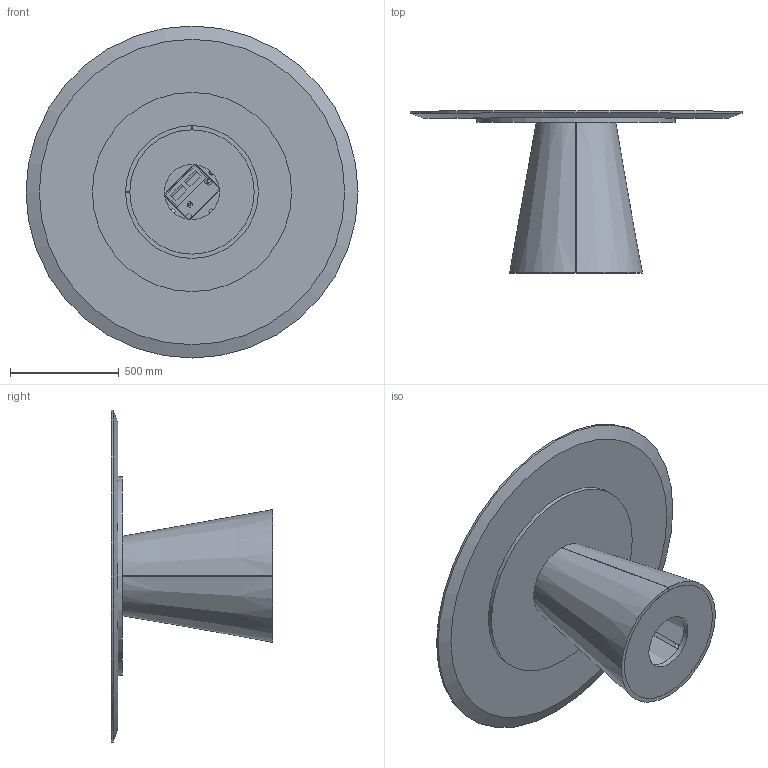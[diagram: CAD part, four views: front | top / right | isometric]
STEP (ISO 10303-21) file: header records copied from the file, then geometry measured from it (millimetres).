
FILE_DESCRIPTION(/* description */ ('','CAx-IF Rec.Pracs.---Representation and Presentation of Product Manufacturing Information (PMI)---4.0---2014-10-13'),/* implementation_level */ '2;1');
FILE_NAME(/* name */ 'TABLE_GRADIENT 2.stp',/* time_stamp */ '2024-12-07T16:26:19-05:00',/* author */ ('mbowman'),/* organization */ (''),/* preprocessor_version */ 'ST-DEVELOPER v19.2',/* originating_system */ 'Autodesk Inventor 2023',/* authorisation */ '');
FILE_SCHEMA (('AP242_MANAGED_MODEL_BASED_3D_ENGINEERING_MIM_LF { 1 0 10303 442 1 1 4 }'));
Length unit declared in the file: inch
Products named in the file (20): GRADIENT^TABLE 2_RADIUS BASE-60 ROUND TOP; GRADIENT^TABLE 2_RADIUS BASE-BASE SIDE; GRADIENT^TABLE 2_RADIUS BASE-BASE TOP; GRADIENT^TABLE 2_RADIUS BASE-BASE BOTTOM; GRADIENT^TABLE 2_RADIUS BASE-SUB TOP; GRADIENT^TABLE 2_RADIUS BASE-TOP; GRADIENT^TABLE 2_RADIUS BASE-BASE DOOR; ECA INTERACT+ UT; ECA INTERACT+ UT_1; 8965-6403_8965-6408 no wires; 025-0043_025-0043; GRADIENT^TABLE 2_RADIUS BASE-POWER LID; _ASSEM_HINGE; _ASSEM_HINGE_1; _SUPPORT; _TIGE_3; _ARM; _TIGE_2; _TIGE_1; GRADIENT^TABLE 2_RADIUS BASE-BASE RIB
Assembly tree (42 placements, depth 4):
  GRADIENT^TABLE 2_RADIUS BASE-60 ROUND TOP
    GRADIENT^TABLE 2_RADIUS BASE-BASE SIDE
    GRADIENT^TABLE 2_RADIUS BASE-BASE TOP
    GRADIENT^TABLE 2_RADIUS BASE-BASE BOTTOM
    GRADIENT^TABLE 2_RADIUS BASE-SUB TOP
    GRADIENT^TABLE 2_RADIUS BASE-TOP
    GRADIENT^TABLE 2_RADIUS BASE-BASE DOOR
    ECA INTERACT+ UT
      ECA INTERACT+ UT_1
      8965-6403_8965-6408 no wires  x5
        025-0043_025-0043
    GRADIENT^TABLE 2_RADIUS BASE-POWER LID
    _ASSEM_HINGE
      _SUPPORT  x2
      _TIGE_3  x2
      _ARM  x4
      _TIGE_1  x2
      _TIGE_2
    _ASSEM_HINGE_1
      _SUPPORT  x2
      _TIGE_3  x2
      _ARM  x4
      _TIGE_1  x2
      _TIGE_2
    GRADIENT^TABLE 2_RADIUS BASE-BASE RIB  x3
Bounding box: 1524 x 742.95 x 1524 mm (x, y, z)
Volume: 96076238 mm3; surface area: 8632724.7 mm2
Topology: 39 solids, 39 shells, 2335 faces, 6378 edges, 4118 vertices
Faces by surface type: plane 1337, cylinder 849, torus 88, cone 43, sphere 16, bspline 2
Full cylindrical faces by diameter (mm): 1 x42, 1.1 x4, 8 x4, 9.525 x1, 254 x1, 914.4 x1, 1524 x1
Entity records: 26825 total; most frequent: CARTESIAN_POINT 7281, DIRECTION 3883, ORIENTED_EDGE 3624, EDGE_CURVE 1812, AXIS2_PLACEMENT_3D 1295, LINE 1293, VECTOR 1293, VERTEX_POINT 1174
